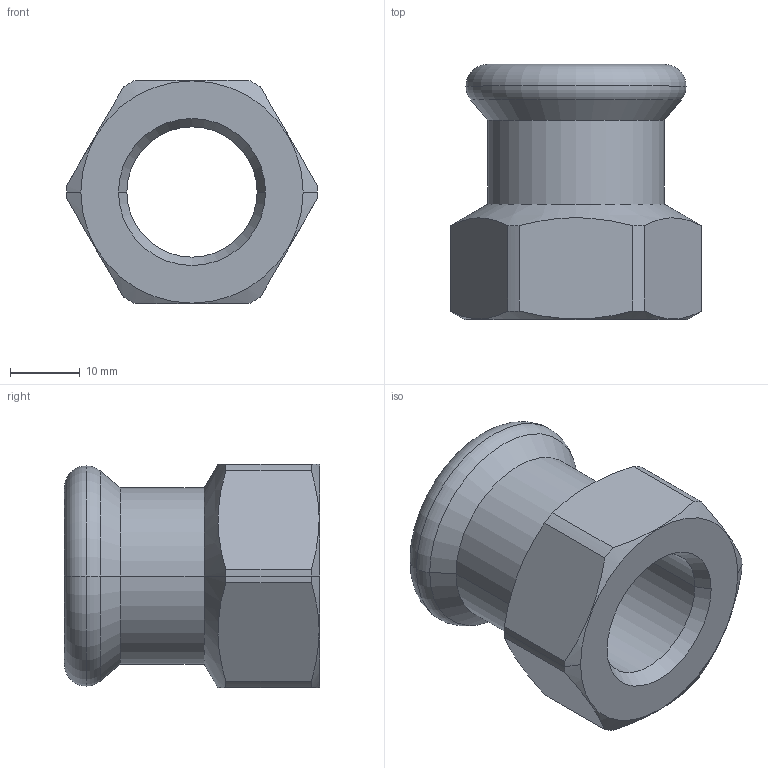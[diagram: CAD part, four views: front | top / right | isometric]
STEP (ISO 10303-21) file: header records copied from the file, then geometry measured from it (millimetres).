
FILE_DESCRIPTION(('CoCreate Modeling STEP Export'),'2;1');
FILE_NAME('C1402 22xR1-2.stp','2015-08-10T15:22:51',(''),(''),'CoCreate Modeling STEP processor for AP214 (Solid Model)','CoCreate Modeling 17.00A 17-Jun-2010 (C) Parametric Technology GmbH','');
FILE_SCHEMA(('AUTOMOTIVE_DESIGN { 1 0 10303 214 1 1 1 1 }'));
Length unit declared in the file: millimetre
Products named in the file (1): C1402-22xR1-2
Bounding box: 35.9 x 36.5 x 32 mm (x, y, z)
Volume: 12989.7 mm3; surface area: 7038 mm2
Topology: 1 solids, 1 shells, 42 faces, 96 edges, 58 vertices
Faces by surface type: cylinder 18, plane 10, cone 10, torus 4
Entity records: 1871 total; most frequent: CARTESIAN_POINT 1048, ORIENTED_EDGE 192, DIRECTION 122, EDGE_CURVE 96, VERTEX_POINT 58, EDGE_LOOP 46, AXIS2_PLACEMENT_3D 44, FACE_OUTER_BOUND 42
